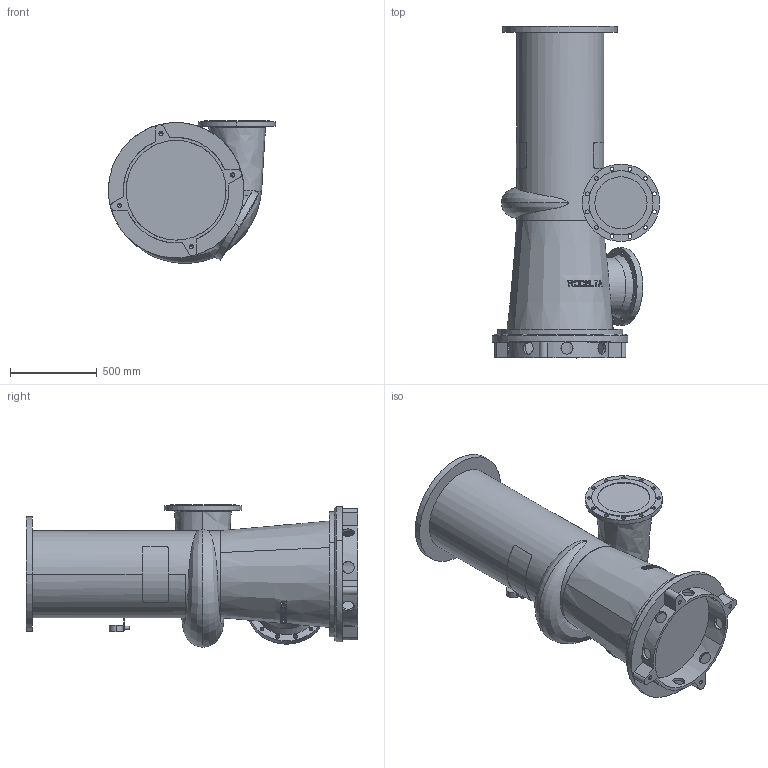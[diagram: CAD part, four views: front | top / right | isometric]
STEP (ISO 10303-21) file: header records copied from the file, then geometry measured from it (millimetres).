
FILE_DESCRIPTION((''),'2;1');
FILE_NAME('12-510_ASM','2024-08-05T',('Lyritlocal'),(''),'PRO/ENGINEER BY PARAMETRIC TECHNOLOGY CORPORATION, 2016360','PRO/ENGINEER BY PARAMETRIC TECHNOLOGY CORPORATION, 2016360','');
FILE_SCHEMA(('CONFIG_CONTROL_DESIGN'));
Length unit declared in the file: millimetre
Products named in the file (3): 12-510; 12-510_VOET; 12-510_ASM
Assembly tree (2 placements, depth 2):
  12-510_ASM
    12-510
    12-510_VOET
Bounding box: 962.5 x 1910 x 820.58 mm (x, y, z)
Volume: 485964673.1 mm3; surface area: 6451901.8 mm2
Topology: 2 solids, 6 shells, 503 faces, 1366 edges, 900 vertices
Faces by surface type: plane 323, cylinder 138, cone 36, bspline 6
Entity records: 18234 total; most frequent: CARTESIAN_POINT 5945, ORIENTED_EDGE 2700, DIRECTION 2279, EDGE_CURVE 1358, VERTEX_POINT 900, AXIS2_PLACEMENT_3D 896, EDGE_LOOP 608, FACE_OUTER_BOUND 503
